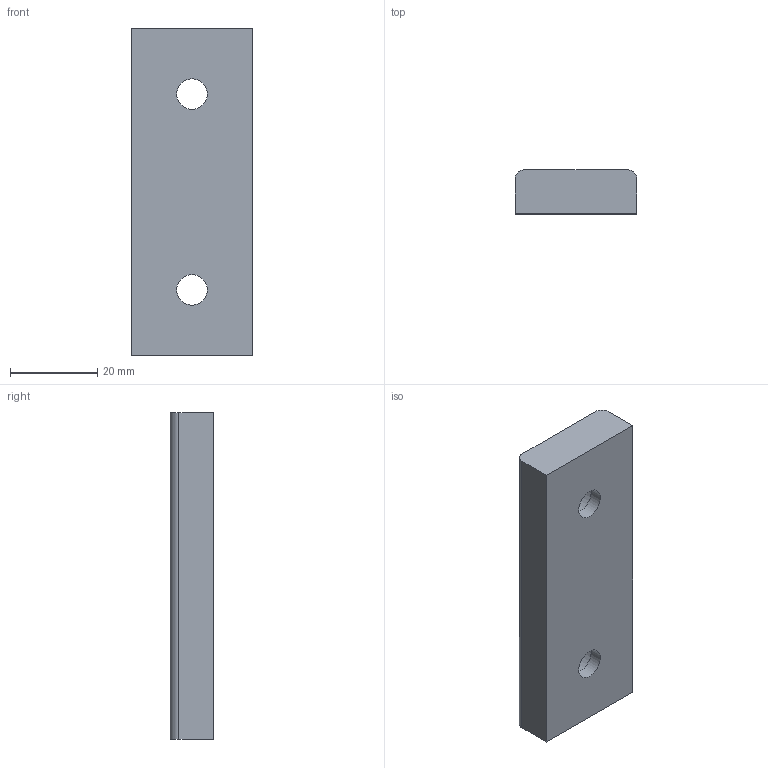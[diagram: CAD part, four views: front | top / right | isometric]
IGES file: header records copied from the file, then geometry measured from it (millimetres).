
Start section: Data from Parasolid IGES Translator 20.0.26, Copyright(c) 2006 Siemens P LM Software. All Rights Reserved.
Global section: file name: G220-01-028-075.igs; native system: By Siemens PLM Incorporated; preprocessor: XPlus GENERIC/IGES 20.0.26; author: Noname; organization: Noname; date: 20190705.150505; units: millimetre
Bounding box: 28 x 10 x 75 mm (x, y, z)
Surface area: 6589.6 mm2 (no closed solid volume)
Topology: 0 solids, 0 shells, 14 faces, 60 edges, 54 vertices
Faces by surface type: extrusion 8, revolution 6
